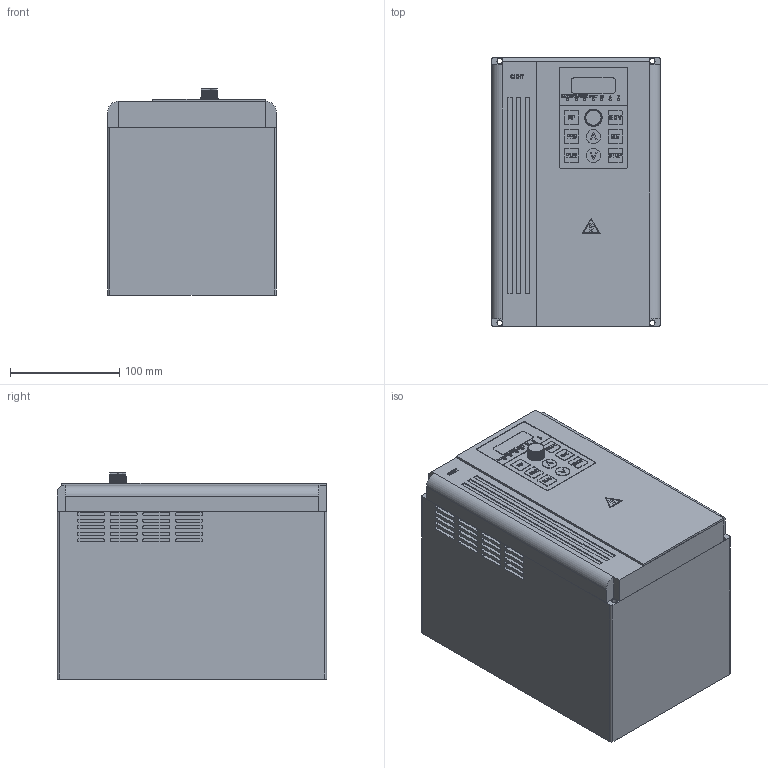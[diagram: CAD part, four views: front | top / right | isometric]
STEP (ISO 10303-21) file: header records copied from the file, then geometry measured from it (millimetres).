
FILE_DESCRIPTION(/* description */ (''),/* implementation_level */ '2;1');
FILE_NAME(/* name */ 'D:\2 ДОГОВОР ЧИНТ\Выслать\CHINT 10.03.2019\NVF2G\NVF2G-3.7 TD2 NVF2G-5.5 TS4(7.5 PS4) NVF2G-7.5 TS4(11 PS4).stp',/* time_stamp */ '2019-03-11T18:33:58+03:00',/* author */ ('RSagdiev'),/* organization */ (''),/* preprocessor_version */ 'ST-DEVELOPER v16.5',/* originating_system */ 'Autodesk Inventor 2017',/* authorisation */ '');
FILE_SCHEMA (('AUTOMOTIVE_DESIGN { 1 0 10303 214 3 1 1 }'));
Length unit declared in the file: millimetre
Products named in the file (1): NVF2G-3.7 TD2 NVF2G-5.5 TS4(7.5 PS4) NVF2G-7.5 TS4(11 PS4)
Bounding box: 155 x 247 x 189 mm (x, y, z)
Volume: 6791146.4 mm3; surface area: 391825.4 mm2
Topology: 17 solids, 17 shells, 1240 faces, 3314 edges, 2207 vertices
Faces by surface type: plane 861, bspline 193, cylinder 96, cone 90
Full cylindrical faces by diameter (mm): 2 x7, 5 x4, 13 x3
Entity records: 39892 total; most frequent: CARTESIAN_POINT 10270, ORIENTED_EDGE 6606, DIRECTION 5202, EDGE_CURVE 3300, LINE 2362, VECTOR 2362, VERTEX_POINT 2207, AXIS2_PLACEMENT_3D 1420
